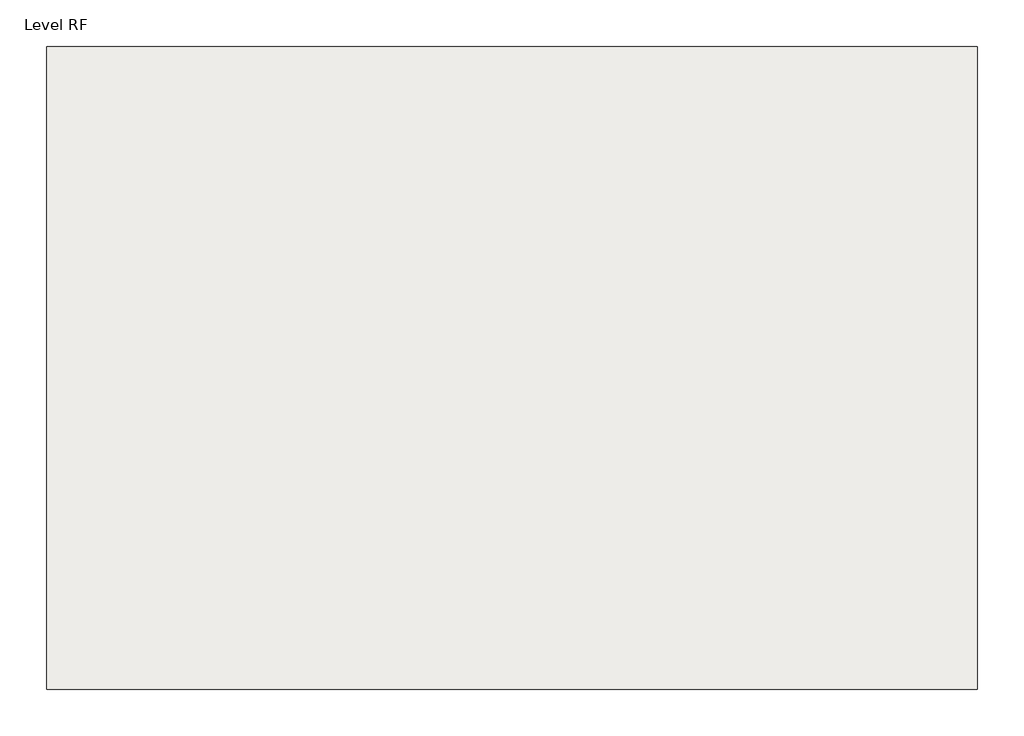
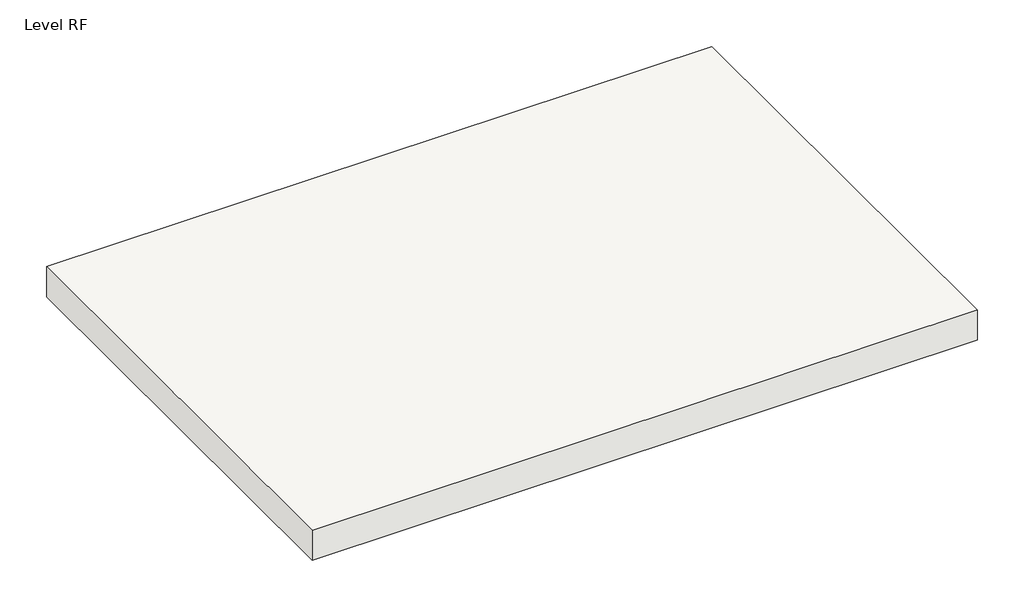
# One storey: 1 roof.
"""IFC4 building model written with IfcOpenShell, lengths in millimetres."""

from ifc_helpers import new_model, si_unit, frame, origin, place, context, project, spatial, polyline, outline, extrude, element, save

model = new_model("IFC4")

# Units and contexts
model_context = context("Model", 3, world=origin())
ifc_project = project(units=[si_unit("LENGTHUNIT", "METRE", prefix="MILLI")], contexts=[model_context])

# Site, building, storey
site = spatial("IfcSite", under=ifc_project)
building = spatial("IfcBuilding", under=site)
storey = spatial("IfcBuildingStorey", under=building, Name="Level RF", Elevation=7600.0)

# Roof
placement = place(None, origin())
element("IfcRoof", 1, ObjectType="Cold Roof - Concrete ", at=placement, inside=storey, context=model_context, shape_type="SweptSolid", body=[
    extrude(outline(polyline([(-7473.7239276, -7296.8966791), (-1323.7239276, -7296.8966791), (-1323.7239276, -11546.8966791), (-7473.7239276, -11546.8966791), (-7473.7239276, -7296.8966791)])), frame((0.0, 0.0, 7305.0), z_axis=(0.0, 0.0, 1.0), x_axis=(1.0, 0.0, 0.0)), (0.0, 0.0, 1.0), 295.0),
])

save(model, "model.ifc")
